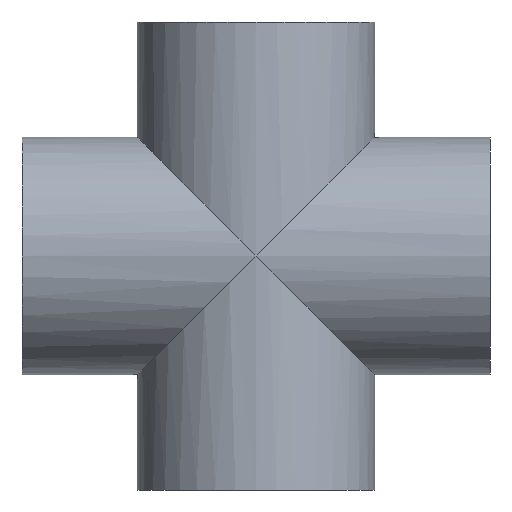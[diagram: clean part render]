
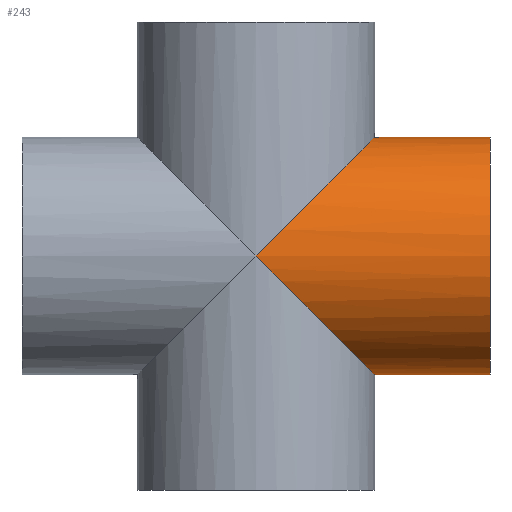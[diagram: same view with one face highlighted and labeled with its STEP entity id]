
A CAD part, left-side view. The second image highlights one B-rep face of the part: STEP entity #243.
In plain terms, the highlighted cylindrical face has radius 16.75 mm (diameter 33.5 mm), a full revolution.
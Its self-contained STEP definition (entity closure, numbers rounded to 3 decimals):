
#19=ELLIPSE('',#282,23.688,16.75);
#20=ELLIPSE('',#283,23.688,16.75);
#43=FACE_BOUND('',#96,.T.);
#63=FACE_OUTER_BOUND('',#95,.T.);
#95=EDGE_LOOP('',(#199,#200));
#96=EDGE_LOOP('',(#201));
#123=CIRCLE('',#284,16.75);
#141=VERTEX_POINT('',#431);
#142=VERTEX_POINT('',#432);
#143=VERTEX_POINT('',#435);
#163=EDGE_CURVE('',#141,#142,#19,.T.);
#164=EDGE_CURVE('',#142,#141,#20,.T.);
#165=EDGE_CURVE('',#143,#143,#123,.T.);
#199=ORIENTED_EDGE('',*,*,#163,.F.);
#200=ORIENTED_EDGE('',*,*,#164,.F.);
#201=ORIENTED_EDGE('',*,*,#165,.F.);
#227=CYLINDRICAL_SURFACE('',#281,16.75);
#243=ADVANCED_FACE('',(#63,#43),#227,.T.);
#281=AXIS2_PLACEMENT_3D('',#430,#355,#356);
#282=AXIS2_PLACEMENT_3D('',#433,#357,#358);
#283=AXIS2_PLACEMENT_3D('',#434,#359,#360);
#284=AXIS2_PLACEMENT_3D('',#436,#361,#362);
#355=DIRECTION('center_axis',(0.,1.,0.));
#356=DIRECTION('ref_axis',(1.,0.,0.));
#357=DIRECTION('center_axis',(0.,0.707,-0.707));
#358=DIRECTION('ref_axis',(0.,-0.707,-0.707));
#359=DIRECTION('center_axis',(0.,0.707,0.707));
#360=DIRECTION('ref_axis',(0.,0.707,-0.707));
#361=DIRECTION('center_axis',(0.,-1.,0.));
#362=DIRECTION('ref_axis',(1.,0.,0.));
#430=CARTESIAN_POINT('Origin',(0.,0.,0.));
#431=CARTESIAN_POINT('',(16.75,0.,0.));
#432=CARTESIAN_POINT('',(-16.75,0.,0.));
#433=CARTESIAN_POINT('Origin',(0.,0.,0.));
#434=CARTESIAN_POINT('Origin',(0.,0.,0.));
#435=CARTESIAN_POINT('',(-16.75,-33.,0.));
#436=CARTESIAN_POINT('Origin',(0.,-33.,0.));
